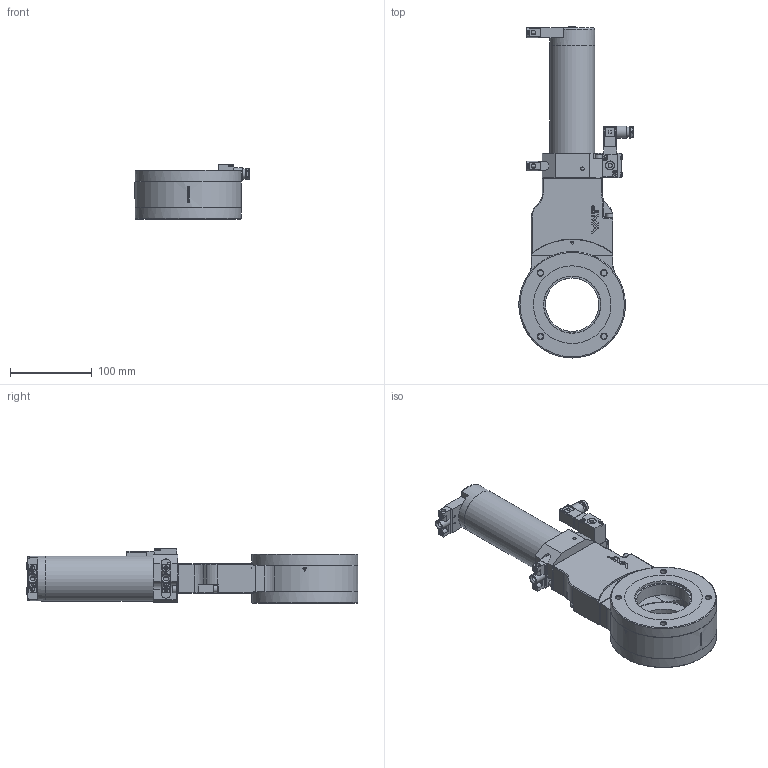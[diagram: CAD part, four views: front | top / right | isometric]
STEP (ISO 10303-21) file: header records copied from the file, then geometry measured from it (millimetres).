
FILE_DESCRIPTION(/* description */ (''),/* implementation_level */ '2;1');
FILE_NAME(/* name */ '1061350240_203.stp',/* time_stamp */ '2012-08-27T12:18:55+02:00',/* author */ (''),/* organization */ (''),/* preprocessor_version */ 'ST-DEVELOPER v11',/* originating_system */ 'SIEMENS PLM Software NX 7.5',/* authorisation */ '');
FILE_SCHEMA (('AP203_CONFIGURATION_CONTROLLED_3D_DESIGN_OF_MECHANICAL_PARTS_AND_ASSEMBLIES_MIM_LF'));
Length unit declared in the file: millimetre
Products named in the file (43): N-8406-013_3.2; N-8406-013_2.1; 73662-01.1; 202839_1.2; N-6121-039.1; N-6099-417.1; 467882; 437235; N-6121-027.2; 251093.3; 77379-01.1; T-9001-055.1; N-6016-478.2; N-7557-016_1.1; N-7557-018.1; N-7557-016_2.1; N-6024-524.1; N-5018-005.1; 92838-01_3.2; 80477-01.1; N-7100-005_2.1; 80478-01.1; N-6195-007.2; 93115-01.1; 87105-01.1; 224793.1; 218187.1; 253166; n-6134-407; 224797.1; 224795.1; 251289.1; 252351.1; 313018.1; 253165.8; 251092.4; N-8406-013_1_1.4_NX-ARRAGMNTZUSAMMENST1; 78856-R1.3; 78855-R1.9_NX-ARRAGMNTZUSAMMENST1; N-7557-016_3.1_MODELNX-ARRAGMNTArrangement 1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
Assembly tree (57 placements, depth 5):
  259111.16
    253165.8
    87090-R1.22_NX-ARRAGMNTbetaetigt Hub 5mm max (mit Feder)
      87105-01.1
      93115-01.1
      N-6195-007.2
      80478-01.1
      N-7100-005_2.1
      80477-01.1
      92838-01_3.2
    94800-r1.7_NX-ARRAGMNTKONFIG1
      N-7557-016_3.1_MODELNX-ARRAGMNTArrangement 1
        437235
        467882
      N-5018-005.1  x2
      N-6024-524.1  x6
      N-7557-016_2.1
      N-7557-018.1
      N-7557-016_1.1
    313018.1  x2
    252351.1
    251289.1
    224795.1  x2
    224797.1  x2
    78855-R1.9_NX-ARRAGMNTZUSAMMENST1  x2
      N-6016-478.2
      T-9001-055.1
      78856-R1.3
        N-6099-417.1  x2
        N-6121-039.1
        202839_1.2
        73662-01.1
        N-8406-013_1_1.4_NX-ARRAGMNTZUSAMMENST1
          N-8406-013_2.1
          202839_1.2
          N-8406-013_3.2
      77379-01.1
    251092.4
      251093.3
      N-6121-027.2  x2
    n-6134-407  x2
    253166
    218187.1
    224793.1
Bounding box: 139.95 x 406.7 x 66.3 mm (x, y, z)
Volume: 957808.5 mm3; surface area: 248239.6 mm2
Topology: 73 solids, 73 shells, 2320 faces, 5770 edges, 3723 vertices
Faces by surface type: plane 1386, cylinder 557, cone 121, bspline 87, extrusion 80, torus 66, sphere 21, revolution 2
Full cylindrical faces by diameter (mm): 1.4 x4, 1.5 x4, 1.875 x1, 2 x5, 2.115 x8, 2.3 x2, 2.475 x3, 2.5 x8, 2.56 x1, 2.575 x1, 2.8 x1, 3 x15, 3.2 x2, 3.3 x1, 3.4 x4, 3.5 x13, 4 x2, 4.16 x6, 4.2 x17, 4.22 x1, 4.3 x2, 4.7 x2, 5 x17, 5.1 x3, 5.3 x2, 5.5 x7, 5.6 x1, 5.65 x1, 5.7 x1, 5.8 x2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
Entity records: 65532 total; most frequent: CARTESIAN_POINT 17952, ORIENTED_EDGE 8202, DIRECTION 7951, EDGE_CURVE 4101, AXIS2_PLACEMENT_3D 2875, VERTEX_POINT 2817, EDGE_LOOP 2301, VECTOR 2200
